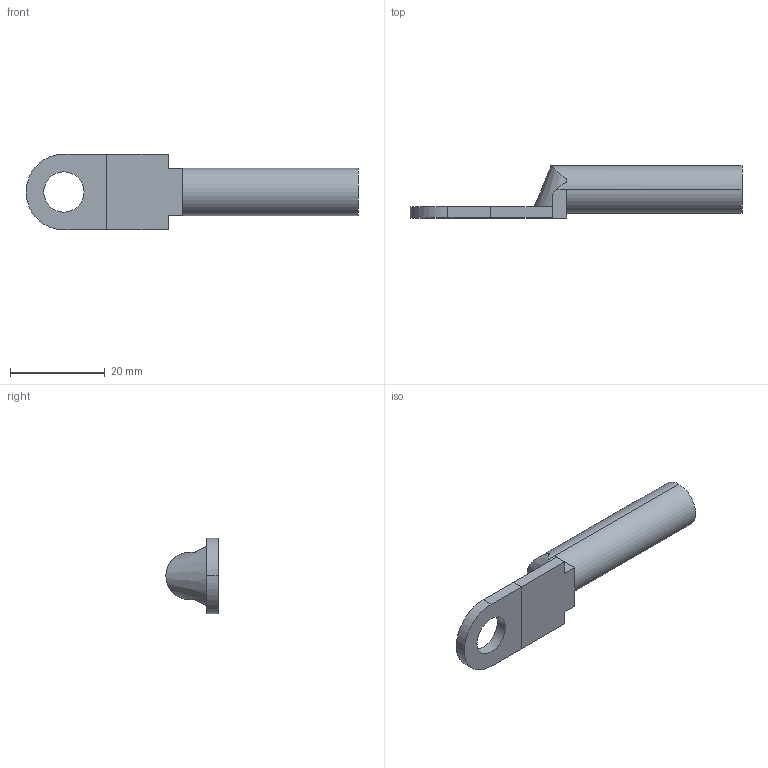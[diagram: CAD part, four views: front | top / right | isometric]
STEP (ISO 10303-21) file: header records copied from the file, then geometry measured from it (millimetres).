
FILE_DESCRIPTION (( 'STEP AP214' ), '1' );
FILE_NAME ('OptiKit L-DTL 10-6.STEP', '2020-04-24T12:47:58', ( '' ), ( '' ), 'SwSTEP 2.0', 'SolidWorks 2018', '' );
FILE_SCHEMA (( 'AUTOMOTIVE_DESIGN' ));
Length unit declared in the file: millimetre
Products named in the file (3): DTL-10-6; OptiKit L-DTL 10-6; 极噉 10-6
Assembly tree (2 placements, depth 2):
  OptiKit L-DTL 10-6
    DTL-10-6
    极噉 10-6
Bounding box: 70 x 11 x 16 mm (x, y, z)
Volume: 3388.6 mm3; surface area: 3186 mm2
Topology: 2 solids, 2 shells, 28 faces, 67 edges, 44 vertices
Faces by surface type: plane 19, cylinder 8, cone 1
Entity records: 988 total; most frequent: CARTESIAN_POINT 219, DIRECTION 144, ORIENTED_EDGE 134, EDGE_CURVE 67, AXIS2_PLACEMENT_3D 51, VERTEX_POINT 44, LINE 42, VECTOR 42
